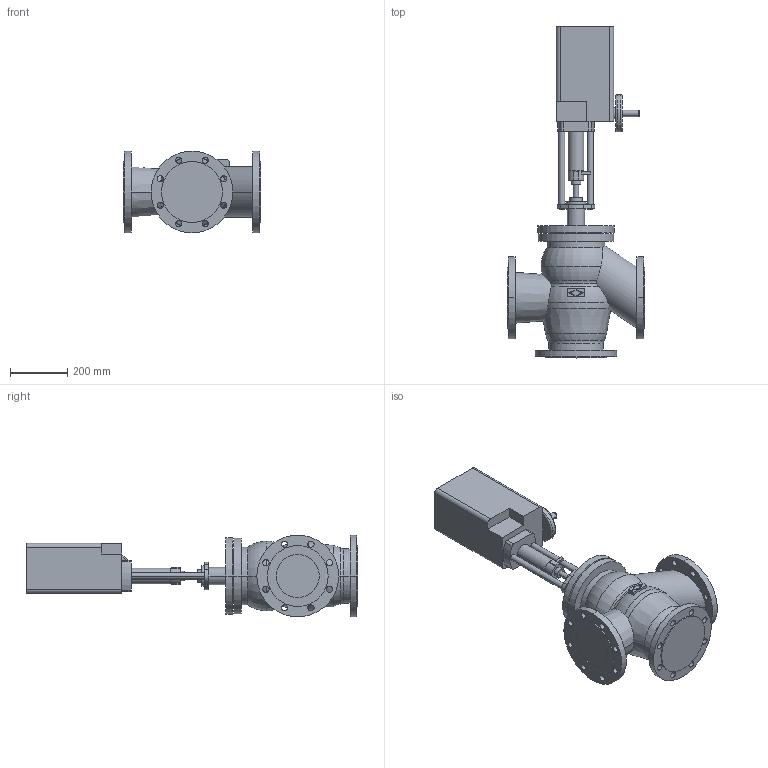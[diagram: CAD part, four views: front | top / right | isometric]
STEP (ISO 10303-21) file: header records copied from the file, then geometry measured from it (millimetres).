
FILE_DESCRIPTION(('OneSpaceDesigner STEP Export'),'2;1');
FILE_NAME('c000002405.stp','2007-01-26T12:33:58',(''),(''),'OneSpace Designer STEP processor for AP214 (Solid Model)','OneSpace Designer 14.00B 27-May-2006 (C) CoCreate Software GmbH','');
FILE_SCHEMA(('AUTOMOTIVE_DESIGN { 1 0 10303 214 1 1 1 1 }'));
Length unit declared in the file: millimetre
Products named in the file (2): 1; 2
Bounding box: 480 x 1157.5 x 285 mm (x, y, z)
Volume: 41316469.9 mm3; surface area: 1396790.6 mm2
Topology: 2 solids, 2 shells, 226 faces, 555 edges, 366 vertices
Faces by surface type: cylinder 116, plane 84, torus 22, cone 4
Entity records: 6297 total; most frequent: CARTESIAN_POINT 1295, ORIENTED_EDGE 1110, DIRECTION 909, EDGE_CURVE 555, VERTEX_POINT 366, AXIS2_PLACEMENT_3D 336, EDGE_LOOP 307, VECTOR 237
